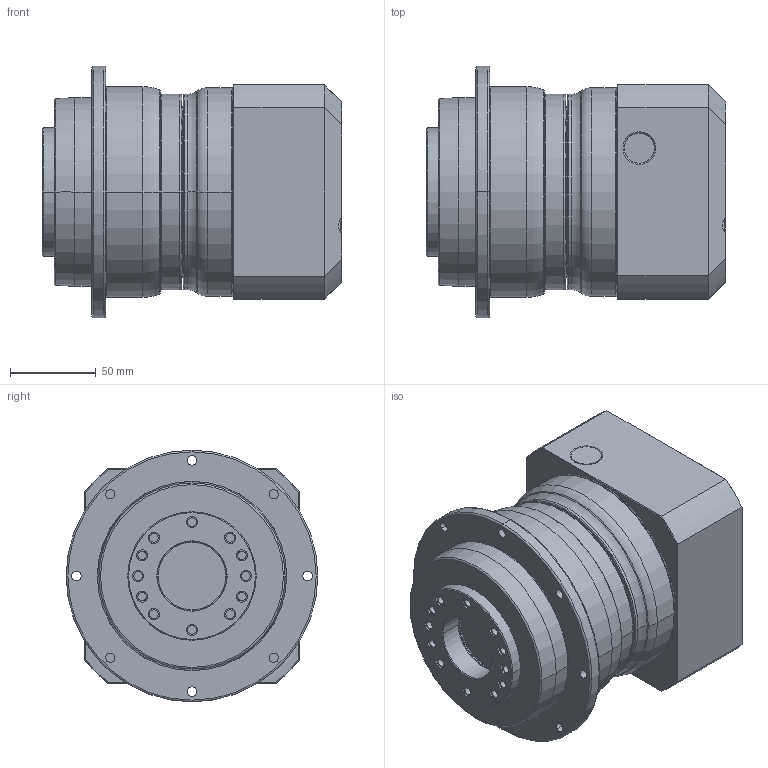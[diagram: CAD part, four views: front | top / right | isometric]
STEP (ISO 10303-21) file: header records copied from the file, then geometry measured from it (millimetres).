
FILE_DESCRIPTION((''),'2;1');
FILE_NAME('PD110_1ST_32-P0411700101_ASM','2016-06-02T',('d01943'),(''),'PRO/ENGINEER BY PARAMETRIC TECHNOLOGY CORPORATION, 2008410','PRO/ENGINEER BY PARAMETRIC TECHNOLOGY CORPORATION, 2008410','');
FILE_SCHEMA(('CONFIG_CONTROL_DESIGN'));
Length unit declared in the file: millimetre
Products named in the file (8): P1355400001; P0367400001; P0274400001; P1324400301; P0411700101; P0503700010; P0941403001; PD110_1ST_32-P0411700101_ASM
Assembly tree (7 placements, depth 2):
  PD110_1ST_32-P0411700101_ASM
    P1355400001
    P0367400001
    P0274400001
    P1324400301
    P0411700101
    P0503700010
    P0941403001
Bounding box: 174.93 x 147 x 147 mm (x, y, z)
Volume: 1797685.6 mm3; surface area: 265451.5 mm2
Topology: 7 solids, 7 shells, 433 faces, 1012 edges, 612 vertices
Faces by surface type: cylinder 166, cone 90, plane 85, torus 70, bspline 22
Entity records: 17533 total; most frequent: CARTESIAN_POINT 7295, DIRECTION 2265, ORIENTED_EDGE 1992, EDGE_CURVE 996, AXIS2_PLACEMENT_3D 962, VERTEX_POINT 612, CIRCLE 536, EDGE_LOOP 524
